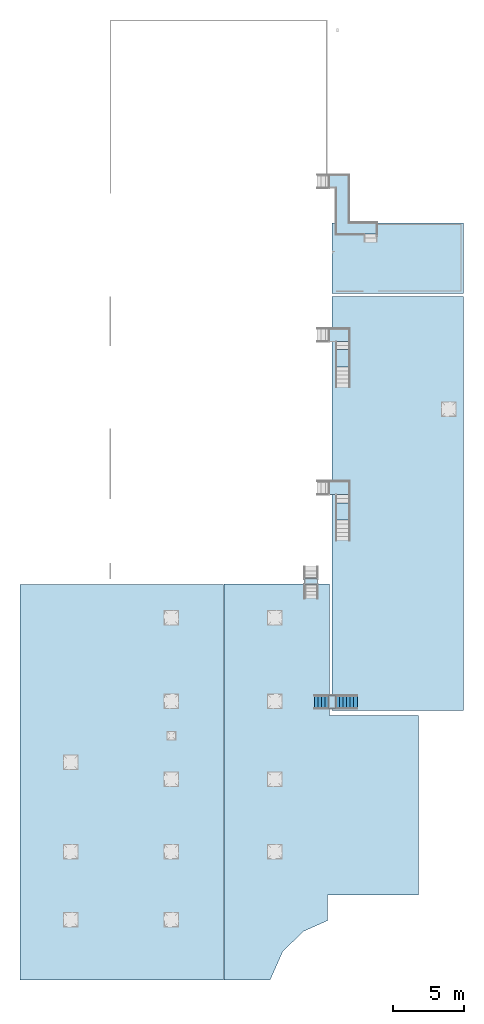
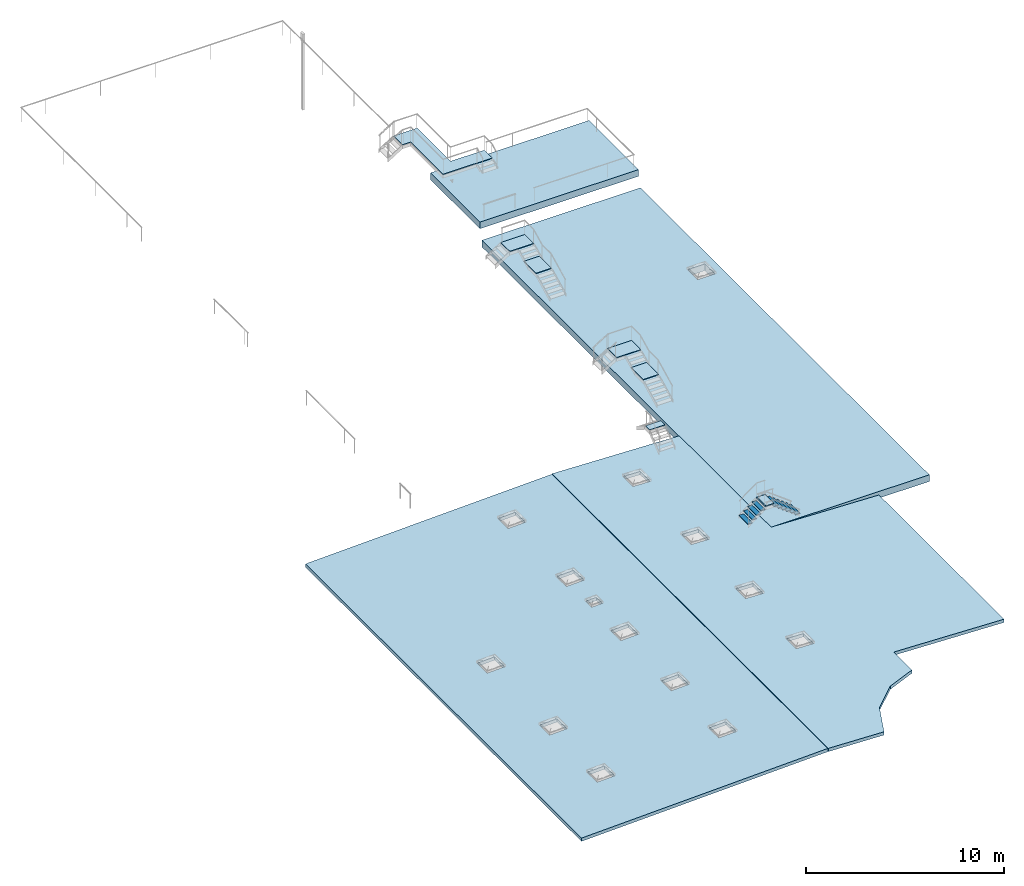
# One storey, part 2 of 15: 13 slabs, 2 stair flights, 28 openings, 11 elements without a shape of their own.
"""IFC2X3 building model written with IfcOpenShell, lengths in centimetres."""

from ifc_helpers import new_model, entity, si_unit, converted_unit, derived_unit, direction, frame, frame_2d, origin, origin_2d_with_axis, place, context, subcontext, project, spatial, polyline, ellipse_curve, parameter, trimmed, segment, composite_curve, rectangle, outline, extrude, material, layer, layer_set, element, aggregate, save


model = new_model("IFC2X3")

# Units and contexts
model_context = context("Model", 3, precision=0.001, world=origin(), true_north=direction((6.12303176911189e-17, 1.0)))
body_context = subcontext(model_context, "Body", "Model", "MODEL_VIEW")
ifc_project = project(units=[si_unit("LENGTHUNIT", "METRE", prefix="CENTI"), si_unit("AREAUNIT", "SQUARE_METRE"), si_unit("VOLUMEUNIT", "CUBIC_METRE"), converted_unit("PLANEANGLEUNIT", "DEGREE", entity("IfcRatioMeasure", 0.0174532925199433), si_unit("PLANEANGLEUNIT", "RADIAN"), dimensions=[0, 0, 0, 0, 0, 0, 0]), si_unit("MASSUNIT", "GRAM", prefix="KILO"), si_unit("TIMEUNIT", "SECOND"), si_unit("FREQUENCYUNIT", "HERTZ"), si_unit("THERMODYNAMICTEMPERATUREUNIT", "DEGREE_CELSIUS"), derived_unit("THERMALTRANSMITTANCEUNIT", [(si_unit("MASSUNIT", "GRAM", prefix="KILO"), 1), (si_unit("THERMODYNAMICTEMPERATUREUNIT", "KELVIN"), -1), (si_unit("TIMEUNIT", "SECOND"), -3)]), derived_unit("VOLUMETRICFLOWRATEUNIT", [(si_unit("LENGTHUNIT", "METRE"), 3), (si_unit("TIMEUNIT", "SECOND"), -1)]), si_unit("ELECTRICCURRENTUNIT", "AMPERE"), si_unit("ELECTRICVOLTAGEUNIT", "VOLT"), si_unit("POWERUNIT", "WATT"), si_unit("FORCEUNIT", "NEWTON", prefix="KILO"), si_unit("ILLUMINANCEUNIT", "LUX"), si_unit("LUMINOUSFLUXUNIT", "LUMEN"), si_unit("LUMINOUSINTENSITYUNIT", "CANDELA"), derived_unit("USERDEFINED", [(si_unit("MASSUNIT", "GRAM", prefix="KILO"), -1), (si_unit("LENGTHUNIT", "METRE"), -2), (si_unit("TIMEUNIT", "SECOND"), 3), (si_unit("LUMINOUSFLUXUNIT", "LUMEN"), 1)]), derived_unit("LINEARVELOCITYUNIT", [(si_unit("LENGTHUNIT", "METRE"), 1), (si_unit("TIMEUNIT", "SECOND"), -1)]), si_unit("PRESSUREUNIT", "PASCAL"), derived_unit("USERDEFINED", [(si_unit("LENGTHUNIT", "METRE"), -2), (si_unit("MASSUNIT", "GRAM", prefix="KILO"), 1), (si_unit("TIMEUNIT", "SECOND"), -2)])], contexts=[model_context])

# Site, building, storey
site_placement = place(None, frame((8.62739174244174, -249.285249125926, 0.0)))
site = spatial("IfcSite", under=ifc_project, at=site_placement, Name="Default", CompositionType="ELEMENT")
building_placement = place(site_placement, origin())
building = spatial("IfcBuilding", under=site, at=building_placement, CompositionType="ELEMENT")
storey_placement = place(building_placement, frame((0.0, 0.0, 801.0)))
storey = spatial("IfcBuildingStorey", under=building, at=storey_placement, Name="Acrotère E3", CompositionType="ELEMENT", Elevation=801.0)

# Roof, openings, slab
roof_1_placement = place(storey_placement, frame((850.904827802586, 752.980244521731, -90.1686590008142)))
roof_1 = element("IfcRoof", 1, at=roof_1_placement, inside=storey, Name="Toit de base:Toit_Multicouche_20 cm", ObjectType="Toit de base:Toit_Multicouche_20 cm", ShapeType="NOTDEFINED")
opening_1_placement = place(roof_1_placement, origin())
element("IfcOpeningElement", 2, at=opening_1_placement, cuts=roof_1, Name="Toit de base:Toit_Multicouche_20 cm", ObjectType="Opening", context=body_context, shape_type="SweptSolid", body=[
    extrude(rectangle(XDim=100.0, YDim=100.0, at=frame_2d((0.0, 0.0), x_axis=(0.0, 1.0))), frame((363.80867123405, 425.019755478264, -119.776224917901), z_axis=(-0.0348994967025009, 0.0, 0.999390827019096), x_axis=(0.0, 1.0, 0.0)), (0.0, 0.0, 1.0), 304.8),
])
opening_2_placement = place(roof_1_placement, origin())
element("IfcOpeningElement", 3, at=opening_2_placement, cuts=roof_1, Name="Toit de base:Toit_Multicouche_20 cm", ObjectType="Opening", context=body_context, shape_type="SweptSolid", body=[
    extrude(rectangle(XDim=100.0, YDim=100.0, at=frame_2d((0.0, 0.0), x_axis=(0.0, 1.0))), frame((363.808671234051, 905.019755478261, -119.776224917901), z_axis=(-0.0348994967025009, 0.0, 0.999390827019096), x_axis=(0.0, 1.0, 0.0)), (0.0, 0.0, 1.0), 304.8),
])
opening_3_placement = place(roof_1_placement, origin())
element("IfcOpeningElement", 4, at=opening_3_placement, cuts=roof_1, Name="Toit de base:Toit_Multicouche_20 cm", ObjectType="Opening", context=body_context, shape_type="SweptSolid", body=[
    extrude(rectangle(XDim=100.0, YDim=100.0, at=frame_2d((-2.16715534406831e-13, 0.0), x_axis=(0.0, 1.0))), frame((363.808671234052, 1535.01975547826, -119.776224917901), z_axis=(-0.0348994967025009, 0.0, 0.999390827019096), x_axis=(0.0, 1.0, 0.0)), (0.0, 0.0, 1.0), 304.8),
])
opening_4_placement = place(roof_1_placement, origin())
element("IfcOpeningElement", 5, at=opening_4_placement, cuts=roof_1, Name="Toit de base:Toit_Multicouche_20 cm", ObjectType="Opening", context=body_context, shape_type="SweptSolid", body=[
    extrude(rectangle(XDim=100.0, YDim=100.0, at=frame_2d((0.0, 0.0), x_axis=(0.0, 1.0))), frame((1073.80867123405, 425.019755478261, -94.9824785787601), z_axis=(-0.0348994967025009, 0.0, 0.999390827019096), x_axis=(0.0, 1.0, 0.0)), (0.0, 0.0, 1.0), 304.8),
])
opening_5_placement = place(roof_1_placement, origin())
element("IfcOpeningElement", 6, at=opening_5_placement, cuts=roof_1, Name="Toit de base:Toit_Multicouche_20 cm", ObjectType="Opening", context=body_context, shape_type="SweptSolid", body=[
    extrude(rectangle(XDim=100.0, YDim=100.0, at=frame_2d((0.0, 0.0), x_axis=(0.0, 1.0))), frame((1073.80867123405, 905.019755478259, -94.9824785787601), z_axis=(-0.0348994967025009, 0.0, 0.999390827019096), x_axis=(0.0, 1.0, 0.0)), (0.0, 0.0, 1.0), 304.8),
])
opening_6_placement = place(roof_1_placement, origin())
element("IfcOpeningElement", 7, at=opening_6_placement, cuts=roof_1, Name="Toit de base:Toit_Multicouche_20 cm", ObjectType="Opening", context=body_context, shape_type="SweptSolid", body=[
    extrude(rectangle(XDim=100.0, YDim=100.0, at=frame_2d((0.0, 0.0), x_axis=(0.0, 1.0))), frame((1073.80867123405, 1415.01975547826, -94.9824785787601), z_axis=(-0.0348994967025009, 0.0, 0.999390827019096), x_axis=(0.0, 1.0, 0.0)), (0.0, 0.0, 1.0), 304.8),
])
opening_7_placement = place(roof_1_placement, origin())
element("IfcOpeningElement", 8, at=opening_7_placement, cuts=roof_1, Name="Toit de base:Toit_Multicouche_20 cm", ObjectType="Opening", context=body_context, shape_type="SweptSolid", body=[
    extrude(rectangle(XDim=100.0, YDim=100.0, at=frame_2d((0.0, 0.0), x_axis=(0.0, 1.0))), frame((1073.80867123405, 1965.01975547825, -94.9824785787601), z_axis=(-0.0348994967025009, 0.0, 0.999390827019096), x_axis=(0.0, 1.0, 0.0)), (0.0, 0.0, 1.0), 304.8),
])
opening_8_placement = place(roof_1_placement, origin())
element("IfcOpeningElement", 9, at=opening_8_placement, cuts=roof_1, Name="Toit de base:Toit_Multicouche_20 cm", ObjectType="Opening", context=body_context, shape_type="SweptSolid", body=[
    extrude(rectangle(XDim=100.0, YDim=100.0, at=frame_2d((-2.16715534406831e-13, 0.0), x_axis=(0.0, 1.0))), frame((1073.80867123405, 2555.01975547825, -94.9824785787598), z_axis=(-0.0348994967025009, 0.0, 0.999390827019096), x_axis=(0.0, 1.0, 0.0)), (0.0, 0.0, 1.0), 304.8),
])
opening_9_placement = place(roof_1_placement, origin())
element("IfcOpeningElement", 10, at=opening_9_placement, cuts=roof_1, Name="Toit de base:Toit_Multicouche_20 cm", ObjectType="Opening", context=body_context, shape_type="SweptSolid", body=[
    extrude(rectangle(XDim=60.0, YDim=59.9999999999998, at=frame_2d((2.18491891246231e-13, 2.16715534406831e-13), x_axis=(1.0, 0.0))), frame((1073.80867121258, 1722.3778199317, -94.98247857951), z_axis=(-0.0348994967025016, 0.0, 0.999390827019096), x_axis=(-0.999390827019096, 0.0, -0.0348994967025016)), (0.0, 0.0, 1.0), 304.8),
])
ifc_material_1 = material(Name="Toiture, membrane EPDM")
ifc_layer_1 = layer(ifc_material_1, 2.0)
ifc_material_2 = material(Name="Laine minérale")
ifc_layer_2 = layer(ifc_material_2, 10.5)
ifc_material_3 = material(Name="Acier")
ifc_layer_3 = layer(ifc_material_3, 7.5)
ifc_layer_set_1 = layer_set([ifc_layer_1, ifc_layer_2, ifc_layer_3], Name="Toit de base:Toit_Multicouche_20 cm")
slab_1_placement = place(roof_1_placement, origin())
slab_1 = element("IfcSlab", 11, at=slab_1_placement, material=ifc_layer_set_1, Name="Toit de base:Toit_Multicouche_20 cm", ObjectType="Toit de base:Toit_Multicouche_20 cm", PredefinedType="ROOF", context=body_context, shape_type="SweptSolid", body=[
    extrude(outline(composite_curve([segment(polyline([(719.045598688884, 1395.00017899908), (-707.874083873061, 1395.00017899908)]), True, "CONTINUOUS"), segment(trimmed(ellipse_curve(frame_2d((-707.833949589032, 1371.4752300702), x_axis=(1.0, 0.0)), 23.5393226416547, 23.5249831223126), [parameter(90.0976887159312)], [parameter(118.443666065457)], True, "PARAMETER"), True, "CONTINUOUS"), segment(polyline([(-719.045598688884, 1392.16041452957), (-719.045598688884, -1395.00017899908)]), True, "CONTINUOUS"), segment(polyline([(-719.045598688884, -1395.00017899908), (719.045598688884, -1395.00017899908)]), True, "CONTINUOUS"), segment(polyline([(719.045598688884, -1395.00017899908), (719.045598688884, 1395.00017899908)]), True, "CONTINUOUS")], self_intersect=False)), frame((718.607575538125, 1395.00017899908, 25.0943295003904), z_axis=(-0.0348994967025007, 0.0, 0.999390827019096), x_axis=(0.999390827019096, 0.0, 0.0348994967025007)), (0.0348994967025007, 0.0, 0.999390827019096), 20.0121908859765),
])
opening_10_placement = place(roof_1_placement, origin())
element("IfcOpeningElement", 12, at=opening_10_placement, cuts=slab_1, Name="Toit de base:Toit_Multicouche_20 cm", ObjectType="Opening", context=body_context, shape_type="SweptSolid", body=[
    extrude(rectangle(XDim=100.0, YDim=100.0, at=frame_2d((-2.16715534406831e-13, 1.10134124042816e-13), x_axis=(0.0, 1.0))), frame((359.187977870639, 425.019755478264, 12.5431205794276), z_axis=(-0.0348994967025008, 0.0, 0.999390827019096), x_axis=(0.0, 1.0, 0.0)), (0.0, 0.0, 1.0), 20.0121908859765),
])
opening_11_placement = place(roof_1_placement, origin())
element("IfcOpeningElement", 13, at=opening_11_placement, cuts=slab_1, Name="Toit de base:Toit_Multicouche_20 cm", ObjectType="Opening", context=body_context, shape_type="SweptSolid", body=[
    extrude(rectangle(XDim=100.0, YDim=100.0, at=frame_2d((0.0, 1.10134124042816e-13), x_axis=(0.0, 1.0))), frame((359.18797787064, 905.019755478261, 12.5431205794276), z_axis=(-0.0348994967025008, 0.0, 0.999390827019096), x_axis=(0.0, 1.0, 0.0)), (0.0, 0.0, 1.0), 20.0121908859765),
])
opening_12_placement = place(roof_1_placement, origin())
element("IfcOpeningElement", 14, at=opening_12_placement, cuts=slab_1, Name="Toit de base:Toit_Multicouche_20 cm", ObjectType="Opening", context=body_context, shape_type="SweptSolid", body=[
    extrude(rectangle(XDim=100.0, YDim=100.0, at=frame_2d((-2.16715534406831e-13, 1.10134124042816e-13), x_axis=(0.0, 1.0))), frame((359.187977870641, 1535.01975547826, 12.5431205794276), z_axis=(-0.0348994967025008, 0.0, 0.999390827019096), x_axis=(0.0, 1.0, 0.0)), (0.0, 0.0, 1.0), 20.0121908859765),
])
opening_13_placement = place(roof_1_placement, origin())
element("IfcOpeningElement", 15, at=opening_13_placement, cuts=slab_1, Name="Toit de base:Toit_Multicouche_20 cm", ObjectType="Opening", context=body_context, shape_type="SweptSolid", body=[
    extrude(rectangle(XDim=100.000000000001, YDim=100.0, at=frame_2d((-2.16715534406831e-13, 0.0), x_axis=(0.0, 1.0))), frame((1069.18797787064, 425.019755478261, 37.3368669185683), z_axis=(-0.0348994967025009, 0.0, 0.999390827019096), x_axis=(0.0, 1.0, 0.0)), (0.0, 0.0, 1.0), 20.0121908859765),
])
opening_14_placement = place(roof_1_placement, origin())
element("IfcOpeningElement", 16, at=opening_14_placement, cuts=slab_1, Name="Toit de base:Toit_Multicouche_20 cm", ObjectType="Opening", context=body_context, shape_type="SweptSolid", body=[
    extrude(rectangle(XDim=100.000000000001, YDim=100.0, at=frame_2d((0.0, -4.29878355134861e-13), x_axis=(0.0, 1.0))), frame((1069.18797787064, 905.019755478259, 37.3368669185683), z_axis=(-0.0348994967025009, 0.0, 0.999390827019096), x_axis=(0.0, 1.0, 0.0)), (0.0, 0.0, 1.0), 20.0121908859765),
])
opening_15_placement = place(roof_1_placement, origin())
element("IfcOpeningElement", 17, at=opening_15_placement, cuts=slab_1, Name="Toit de base:Toit_Multicouche_20 cm", ObjectType="Opening", context=body_context, shape_type="SweptSolid", body=[
    extrude(rectangle(XDim=100.000000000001, YDim=100.0, at=frame_2d((2.16715534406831e-13, -2.16715534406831e-13), x_axis=(0.0, 1.0))), frame((1069.18797787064, 1415.01975547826, 37.3368669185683), z_axis=(-0.0348994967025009, 0.0, 0.999390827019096), x_axis=(0.0, 1.0, 0.0)), (0.0, 0.0, 1.0), 20.0121908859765),
])
opening_16_placement = place(roof_1_placement, origin())
element("IfcOpeningElement", 18, at=opening_16_placement, cuts=slab_1, Name="Toit de base:Toit_Multicouche_20 cm", ObjectType="Opening", context=body_context, shape_type="SweptSolid", body=[
    extrude(rectangle(XDim=100.000000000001, YDim=100.0, at=frame_2d((2.16715534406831e-13, -2.16715534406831e-13), x_axis=(0.0, 1.0))), frame((1069.18797787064, 1965.01975547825, 37.3368669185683), z_axis=(-0.0348994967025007, 0.0, 0.999390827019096), x_axis=(0.0, 1.0, 0.0)), (0.0, 0.0, 1.0), 20.0121908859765),
])
opening_17_placement = place(roof_1_placement, origin())
element("IfcOpeningElement", 19, at=opening_17_placement, cuts=slab_1, Name="Toit de base:Toit_Multicouche_20 cm", ObjectType="Opening", context=body_context, shape_type="SweptSolid", body=[
    extrude(rectangle(XDim=100.000000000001, YDim=100.0, at=frame_2d((-2.16715534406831e-13, 2.16715534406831e-13), x_axis=(0.0, 1.0))), frame((1069.18797787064, 2555.01975547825, 37.3368669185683), z_axis=(-0.0348994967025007, 0.0, 0.999390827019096), x_axis=(0.0, 1.0, 0.0)), (0.0, 0.0, 1.0), 20.0121908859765),
])
opening_18_placement = place(roof_1_placement, origin())
element("IfcOpeningElement", 20, at=opening_18_placement, cuts=slab_1, Name="Toit de base:Toit_Multicouche_20 cm", ObjectType="Opening", context=body_context, shape_type="SweptSolid", body=[
    extrude(rectangle(XDim=59.9999999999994, YDim=59.9999999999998, at=frame_2d((-2.16715534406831e-13, 2.16715534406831e-13), x_axis=(1.0, 0.0))), frame((1069.18797784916, 1722.3778199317, 37.3368669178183), z_axis=(-0.0348994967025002, 0.0, 0.999390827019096), x_axis=(-0.999390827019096, 0.0, -0.0348994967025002)), (0.0, 0.0, 1.0), 20.0121908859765),
])
aggregate(roof_1, [slab_1])

roof_2_placement = place(storey_placement, frame((2291.11997887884, 751.980208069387, -87.8139409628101)))
roof_2 = element("IfcRoof", 21, at=roof_2_placement, inside=storey, Name="Toit de base:Toit_Multicouche_20 cm", ObjectType="Toit de base:Toit_Multicouche_20 cm", ShapeType="NOTDEFINED")
opening_19_placement = place(roof_2_placement, origin())
element("IfcOpeningElement", 22, at=opening_19_placement, cuts=roof_2, Name="Toit de base:Toit_Multicouche_20 cm", ObjectType="Opening", context=body_context, shape_type="SweptSolid", body=[
    extrude(rectangle(XDim=100.0, YDim=100.0, at=frame_2d((0.0, 0.0), x_axis=(0.0, 1.0))), frame((351.842133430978, 906.019791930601, -96.8635192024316), z_axis=(0.0348994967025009, 0.0, 0.999390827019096), x_axis=(0.0, 1.0, 0.0)), (0.0, 0.0, 1.0), 304.8),
])
opening_20_placement = place(roof_2_placement, origin())
element("IfcOpeningElement", 23, at=opening_20_placement, cuts=roof_2, Name="Toit de base:Toit_Multicouche_20 cm", ObjectType="Opening", context=body_context, shape_type="SweptSolid", body=[
    extrude(rectangle(XDim=100.0, YDim=100.0, at=frame_2d((-2.1316282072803e-13, 4.33431068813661e-13), x_axis=(0.0, 1.0))), frame((351.84213343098, 1416.0197919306, -96.8635192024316), z_axis=(0.0348994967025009, 0.0, 0.999390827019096), x_axis=(0.0, 1.0, 0.0)), (0.0, 0.0, 1.0), 304.8),
])
opening_21_placement = place(roof_2_placement, origin())
element("IfcOpeningElement", 24, at=opening_21_placement, cuts=roof_2, Name="Toit de base:Toit_Multicouche_20 cm", ObjectType="Opening", context=body_context, shape_type="SweptSolid", body=[
    extrude(rectangle(XDim=100.0, YDim=100.0, at=frame_2d((-2.1316282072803e-13, -4.33431068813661e-13), x_axis=(0.0, 1.0))), frame((351.84213343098, 1966.0197919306, -96.8635192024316), z_axis=(0.0348994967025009, 0.0, 0.999390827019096), x_axis=(0.0, 1.0, 0.0)), (0.0, 0.0, 1.0), 304.8),
])
opening_22_placement = place(roof_2_placement, origin())
element("IfcOpeningElement", 25, at=opening_22_placement, cuts=roof_2, Name="Toit de base:Toit_Multicouche_20 cm", ObjectType="Opening", context=body_context, shape_type="SweptSolid", body=[
    extrude(rectangle(XDim=100.0, YDim=100.0, at=frame_2d((2.1316282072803e-13, 0.0), x_axis=(0.0, 1.0))), frame((351.842133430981, 2556.0197919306, -96.8635192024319), z_axis=(0.0348994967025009, 0.0, 0.999390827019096), x_axis=(0.0, 1.0, 0.0)), (0.0, 0.0, 1.0), 304.8),
])
slab_2_placement = place(roof_2_placement, origin())
slab_2 = element("IfcSlab", 26, at=slab_2_placement, material=ifc_layer_set_1, Name="Toit de base:Toit_Multicouche_20 cm", ObjectType="Toit de base:Toit_Multicouche_20 cm", PredefinedType="ROOF", context=body_context, shape_type="SweptSolid", body=[
    extrude(outline(polyline([(-686.310506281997, -1397.00017899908), (-361.449068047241, -1397.00017899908), (-271.487803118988, -1195.06695698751), (-126.61555745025, -1054.17981079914), (42.9988849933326, -978.708598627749), (42.9988849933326, -796.000573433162), (686.310506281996, -796.000573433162), (686.310506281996, 467.999821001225), (56.9271027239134, 467.999821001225), (56.9271027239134, 1397.00017899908), (-686.310506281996, 1397.00017899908), (-686.310506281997, -1397.00017899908)])), frame((685.892424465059, 1397.00017899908, 23.9518912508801), z_axis=(0.0348994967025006, 0.0, 0.999390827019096), x_axis=(0.999390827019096, 0.0, -0.0348994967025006)), (-0.0348994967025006, 0.0, 0.999390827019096), 20.0121908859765),
])
opening_23_placement = place(roof_2_placement, origin())
element("IfcOpeningElement", 27, at=opening_23_placement, cuts=slab_2, Name="Toit de base:Toit_Multicouche_20 cm", ObjectType="Opening", context=body_context, shape_type="SweptSolid", body=[
    extrude(rectangle(XDim=100.000000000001, YDim=100.0, at=frame_2d((0.0, 0.0), x_axis=(0.0, 1.0))), frame((356.462826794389, 906.019791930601, 35.4558262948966), z_axis=(0.0348994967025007, 0.0, 0.999390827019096), x_axis=(0.0, 1.0, 0.0)), (0.0, 0.0, 1.0), 20.0121908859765),
])
opening_24_placement = place(roof_2_placement, origin())
element("IfcOpeningElement", 28, at=opening_24_placement, cuts=slab_2, Name="Toit de base:Toit_Multicouche_20 cm", ObjectType="Opening", context=body_context, shape_type="SweptSolid", body=[
    extrude(rectangle(XDim=100.000000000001, YDim=99.9999999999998, at=frame_2d((0.0, 0.0), x_axis=(0.0, 1.0))), frame((356.46282679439, 1416.0197919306, 35.4558262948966), z_axis=(0.0348994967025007, 0.0, 0.999390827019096), x_axis=(0.0, 1.0, 0.0)), (0.0, 0.0, 1.0), 20.0121908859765),
])
opening_25_placement = place(roof_2_placement, origin())
element("IfcOpeningElement", 29, at=opening_25_placement, cuts=slab_2, Name="Toit de base:Toit_Multicouche_20 cm", ObjectType="Opening", context=body_context, shape_type="SweptSolid", body=[
    extrude(rectangle(XDim=100.000000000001, YDim=99.9999999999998, at=frame_2d((0.0, 0.0), x_axis=(0.0, 1.0))), frame((356.462826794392, 1966.0197919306, 35.4558262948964), z_axis=(0.0348994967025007, 0.0, 0.999390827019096), x_axis=(0.0, 1.0, 0.0)), (0.0, 0.0, 1.0), 20.0121908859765),
])
opening_26_placement = place(roof_2_placement, origin())
element("IfcOpeningElement", 30, at=opening_26_placement, cuts=slab_2, Name="Toit de base:Toit_Multicouche_20 cm", ObjectType="Opening", context=body_context, shape_type="SweptSolid", body=[
    extrude(rectangle(XDim=100.000000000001, YDim=99.9999999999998, at=frame_2d((4.33431068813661e-13, 0.0), x_axis=(0.0, 1.0))), frame((356.462826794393, 2556.0197919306, 35.4558262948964), z_axis=(0.0348994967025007, 0.0, 0.999390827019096), x_axis=(0.0, 1.0, 0.0)), (0.0, 0.0, 1.0), 20.0121908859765),
])
aggregate(roof_2, [slab_2])

roof_3_placement = place(building_placement, frame((3053.9048277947, 2654.98020806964, 683.0)))
roof_3 = element("IfcRoof", 31, at=roof_3_placement, inside=storey, Name="Toit de base:ET 2 + ISO 17 + BET 22", ObjectType="Toit de base:ET 2 + ISO 17 + BET 22", ShapeType="NOTDEFINED")
opening_27_placement = place(roof_3_placement, origin())
element("IfcOpeningElement", 32, at=opening_27_placement, cuts=roof_3, Name="Toit de base:ET 2 + ISO 17 + BET 22", ObjectType="Opening", context=body_context, shape_type="SweptSolid", body=[
    extrude(rectangle(XDim=99.9999999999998, YDim=100.000000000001, at=origin_2d_with_axis()), frame((822.0, 2125.50000006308, -111.4), z_axis=(0.0, 0.0, 1.0), x_axis=(-1.0, 0.0, 0.0)), (0.0, 0.0, 1.0), 304.8),
])
ifc_layer_4 = layer(ifc_material_1, 2.0)
ifc_layer_5 = layer(ifc_material_2, 17.0)
ifc_material_4 = material(Name="Béton, coulé sur place, gris(1)")
ifc_layer_6 = layer(ifc_material_4, 22.0)
ifc_layer_set_2 = layer_set([ifc_layer_4, ifc_layer_5, ifc_layer_6], Name="Toit de base:ET 2 + ISO 17 + BET 22")
slab_3_placement = place(roof_3_placement, origin())
slab_3 = element("IfcSlab", 33, at=slab_3_placement, material=ifc_layer_set_2, Name="Toit de base:ET 2 + ISO 17 + BET 22", ObjectType="Toit de base:ET 2 + ISO 17 + BET 22", PredefinedType="ROOF", context=body_context, shape_type="SweptSolid", body=[
    extrude(rectangle(XDim=2920.00000006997, YDim=925.000000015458, at=frame_2d((-2.27373675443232e-13, 0.0), x_axis=(0.0, -1.0))), frame((462.500000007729, 1460.0, 0.0)), (0.0, 0.0, 1.0), 41.0),
])
opening_28_placement = place(roof_3_placement, origin())
element("IfcOpeningElement", 34, at=opening_28_placement, cuts=slab_3, Name="Toit de base:ET 2 + ISO 17 + BET 22", ObjectType="Opening", context=body_context, shape_type="SweptSolid", body=[
    extrude(rectangle(XDim=99.9999999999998, YDim=99.9999999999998, at=origin_2d_with_axis()), frame((822.0, 2125.50000006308, 0.0), z_axis=(0.0, 0.0, 1.0), x_axis=(-1.0, 0.0, 0.0)), (0.0, 0.0, 1.0), 41.0),
])
aggregate(roof_3, [slab_3])

# Roof, slab
roof_4_placement = place(building_placement, frame((3053.9048276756, 5594.9802081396, 783.0)))
roof_4 = element("IfcRoof", 35, at=roof_4_placement, inside=storey, Name="Toit de base:ET 2 + ISO 17 + BET 22", ObjectType="Toit de base:ET 2 + ISO 17 + BET 22", ShapeType="NOTDEFINED")
slab_4_placement = place(roof_4_placement, origin())
slab_4 = element("IfcSlab", 36, at=slab_4_placement, material=ifc_layer_set_2, Name="Toit de base:ET 2 + ISO 17 + BET 22", ObjectType="Toit de base:ET 2 + ISO 17 + BET 22", PredefinedType="ROOF", context=body_context, shape_type="SweptSolid", body=[
    extrude(rectangle(XDim=500.0, YDim=925.000000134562, at=frame_2d((-2.27373675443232e-13, 4.40536496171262e-13), x_axis=(0.0, 1.0))), frame((462.500000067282, 250.0, 0.0)), (0.0, 0.0, 1.0), 41.0),
])
aggregate(roof_4, [slab_4])

# Stair, slabs
stair_1_placement = place(building_placement, frame((0.0, 0.0, 801.0)))
stair_1 = element("IfcStair", 37, at=stair_1_placement, inside=storey, Name="Escalier assemblé:Escalier", ShapeType="NOTDEFINED")
ifc_material_5 = material(Name="Acier, 45-345")
slab_5_placement = place(stair_1_placement, origin())
slab_5 = element("IfcSlab", 38, at=slab_5_placement, material=ifc_material_5, Name="Escalier assemblé:Escalier:1444679 Landing 1", ObjectType="Escalier assemblé:Escalier métallique", PredefinedType="LANDING", context=body_context, shape_type="SweptSolid", body=[
    extrude(rectangle(XDim=90.0000000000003, YDim=122.290118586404, at=origin_2d_with_axis()), frame((3128.90482781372, 4058.33025265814, 7.33333333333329)), (0.0, 0.0, 1.0), 2.99999999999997),
])
slab_6_placement = place(stair_1_placement, origin())
slab_6 = element("IfcSlab", 39, at=slab_6_placement, material=ifc_material_5, Name="Escalier assemblé:Escalier:1444679 Landing 2", ObjectType="Escalier assemblé:Escalier métallique", PredefinedType="LANDING", context=body_context, shape_type="SweptSolid", body=[
    extrude(rectangle(XDim=140.000000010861, YDim=93.0000000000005, at=frame_2d((3.99999999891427, 9.29999999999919), x_axis=(1.0, 0.0))), frame((3099.90482780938, 4214.67531195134, 51.0)), (0.0, 0.0, 1.0), 2.99999999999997),
])
aggregate(stair_1, [slab_5, slab_6])

stair_2_placement = place(storey_placement, origin())
stair_2 = element("IfcStair", 40, at=stair_2_placement, inside=storey, Name="Escalier assemblé:Escalier", ShapeType="NOTDEFINED")
slab_7_placement = place(stair_2_placement, origin())
slab_7 = element("IfcSlab", 41, at=slab_7_placement, material=ifc_material_5, Name="Escalier assemblé:Escalier:1453682 Landing 1", ObjectType="Escalier assemblé:Escalier métallique", PredefinedType="LANDING", context=body_context, shape_type="SweptSolid", body=[
    extrude(rectangle(XDim=90.0000000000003, YDim=121.545514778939, at=frame_2d((0.0, 4.33431068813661e-13), x_axis=(1.0, 0.0))), frame((3128.90482780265, 5139.70447839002, 7.33333333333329)), (0.0, 0.0, 1.0), 2.99999999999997),
])
slab_8_placement = place(stair_2_placement, origin())
slab_8 = element("IfcSlab", 42, at=slab_8_placement, material=ifc_material_5, Name="Escalier assemblé:Escalier:1453682 Landing 2", ObjectType="Escalier assemblé:Escalier métallique", PredefinedType="LANDING", context=body_context, shape_type="SweptSolid", body=[
    extrude(rectangle(XDim=139.999999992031, YDim=90.0000000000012, at=frame_2d((4.00000000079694, 9.00000000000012), x_axis=(1.0, 0.0))), frame((3099.90482780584, 5294.47723577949, 51.0)), (0.0, 0.0, 1.0), 2.99999999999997),
])
aggregate(stair_2, [slab_7, slab_8])

# Stair, slab
stair_3_placement = place(storey_placement, origin())
stair_3 = element("IfcStair", 43, at=stair_3_placement, inside=storey, Name="Escalier assemblé:Escalier", ShapeType="NOTDEFINED")
slab_9_placement = place(stair_3_placement, origin())
slab_9 = element("IfcSlab", 44, at=slab_9_placement, material=ifc_material_5, Name="Escalier assemblé:Escalier:1453820 Landing 1", ObjectType="Escalier assemblé:Escalier métallique", PredefinedType="LANDING", context=body_context, shape_type="SweptSolid", body=[
    extrude(outline(polyline([(101.777777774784, -183.332094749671), (191.777777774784, -183.332094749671), (191.777777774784, -103.332094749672), (-5.22222223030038, -103.332094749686), (-5.22222223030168, 234.165118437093), (-142.222222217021, 234.165118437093), (-142.222222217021, 144.165118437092), (-95.2222222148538, 144.165118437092), (-95.2222222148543, -183.332094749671), (101.777777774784, -183.332094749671)])), frame((3176.12705002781, 6198.31230288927, 51.0)), (0.0, 0.0, 1.0), 2.99999999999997),
])
aggregate(stair_3, [slab_9])

stair_4_placement = place(building_placement, frame((0.0, 0.0, 801.0)))
stair_4 = element("IfcStair", 45, at=stair_4_placement, inside=storey, Name="Escalier assemblé:Escalier", ShapeType="NOTDEFINED")
slab_10_placement = place(stair_4_placement, origin())
slab_10 = element("IfcSlab", 46, at=slab_10_placement, material=ifc_material_5, Name="Escalier assemblé:Escalier:1460621 Landing 1", ObjectType="Escalier assemblé:Escalier métallique toiture", PredefinedType="LANDING", context=body_context, shape_type="SweptSolid", body=[
    extrude(rectangle(XDim=90.0000000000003, YDim=46.999999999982, at=origin_2d_with_axis()), frame((3057.40482782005, 2712.98020806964, 51.0), z_axis=(0.0, 0.0, 1.0), x_axis=(0.0, 1.0, 0.0)), (0.0, 0.0, 1.0), 2.99999999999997),
])

stair_5_placement = place(building_placement, frame((0.0, 0.0, 801.0)))
stair_5 = element("IfcStair", 47, at=stair_5_placement, inside=storey, Name="Escalier assemblé:Escalier", ShapeType="NOTDEFINED")
slab_11_placement = place(stair_5_placement, origin())
slab_11 = element("IfcSlab", 48, at=slab_11_placement, material=ifc_material_5, Name="Escalier assemblé:Escalier:1461006 Landing 1", ObjectType="Escalier assemblé:Escalier métallique toiture", PredefinedType="LANDING", context=body_context, shape_type="SweptSolid", body=[
    extrude(rectangle(XDim=90.0000000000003, YDim=49.9999999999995, at=frame_2d((0.0, -4.33431068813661e-13), x_axis=(1.0, 0.0))), frame((3052.90482782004, 2712.98020806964, 51.0), z_axis=(0.0, 0.0, 1.0), x_axis=(0.0, -1.0, 0.0)), (0.0, 0.0, 1.0), 2.99999999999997),
])

stair_6_placement = place(storey_placement, origin())
stair_6 = element("IfcStair", 49, at=stair_6_placement, inside=storey, Name="Escalier assemblé:Escalier", ShapeType="NOTDEFINED")
slab_12_placement = place(stair_6_placement, origin())
slab_12 = element("IfcSlab", 50, at=slab_12_placement, material=ifc_material_5, Name="Escalier assemblé:Escalier:1461847 Landing 1", ObjectType="Escalier assemblé:Escalier métallique toiture", PredefinedType="LANDING", context=body_context, shape_type="SweptSolid", body=[
    extrude(rectangle(XDim=41.5000000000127, YDim=90.0000000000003, at=frame_2d((2.16715534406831e-13, 0.0), x_axis=(1.0, 0.0))), frame((2903.97106117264, 3563.93519336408, 51.0), z_axis=(0.0, 0.0, 1.0), x_axis=(0.0, -1.0, 0.0)), (0.0, 0.0, 1.0), 2.99999999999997),
])
aggregate(stair_6, [slab_12])

stair_7_placement = place(storey_placement, origin())
stair_7 = element("IfcStair", 51, at=stair_7_placement, inside=storey, Name="Escalier assemblé:Escalier", ShapeType="NOTDEFINED")
slab_13_placement = place(stair_7_placement, origin())
slab_13 = element("IfcSlab", 52, at=slab_13_placement, material=ifc_material_5, Name="Escalier assemblé:Escalier:1461963 Landing 1", ObjectType="Escalier assemblé:Escalier métallique toiture", PredefinedType="LANDING", context=body_context, shape_type="SweptSolid", body=[
    extrude(rectangle(XDim=90.0000000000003, YDim=41.5000000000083, at=frame_2d((0.0, -2.16715534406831e-13), x_axis=(1.0, 0.0))), frame((2904.14525468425, 3563.93519336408, 51.0), z_axis=(0.0, 0.0, 1.0), x_axis=(-1.0, 0.0, 0.0)), (0.0, 0.0, 1.0), 2.99999999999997),
])
aggregate(stair_7, [slab_13])

# Stair flight
stair_flight_1_placement = place(stair_4_placement, origin())
stair_flight_1 = element("IfcStairFlight", 53, at=stair_flight_1_placement, material=ifc_material_5, Name="Escalier assemblé:Escalier:1460621 Run 1", ObjectType="Escalier assemblé:Escalier métallique toiture", NumberOfRiser=7, NumberOfTreads=6, RiserHeight=0.613985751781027, TreadLength=0.820209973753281, context=body_context, shape_type="SweptSolid", body=[
    extrude(rectangle(XDim=24.9999999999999, YDim=90.0000000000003, at=frame_2d((-2.16715534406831e-13, 0.0), x_axis=(1.0, 0.0))), frame((3218.40482782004, 2712.98020806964, -61.2857142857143)), (0.0, 0.0, 1.0), 2.99999999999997),
    extrude(rectangle(XDim=24.9999999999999, YDim=90.0000000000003, at=frame_2d((2.16715534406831e-13, 0.0), x_axis=(1.0, 0.0))), frame((3193.40482782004, 2712.98020806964, -42.5714285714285)), (0.0, 0.0, 1.0), 2.99999999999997),
    extrude(rectangle(XDim=24.9999999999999, YDim=90.0000000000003, at=frame_2d((2.16715534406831e-13, 0.0), x_axis=(1.0, 0.0))), frame((3168.40482782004, 2712.98020806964, -23.8571428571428)), (0.0, 0.0, 1.0), 2.99999999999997),
    extrude(rectangle(XDim=24.9999999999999, YDim=90.0000000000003, at=frame_2d((2.16715534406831e-13, 0.0), x_axis=(1.0, 0.0))), frame((3143.40482782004, 2712.98020806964, -5.14285714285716)), (0.0, 0.0, 1.0), 2.99999999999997),
    extrude(rectangle(XDim=24.9999999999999, YDim=90.0000000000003, at=frame_2d((2.16715534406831e-13, 0.0), x_axis=(1.0, 0.0))), frame((3118.40482782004, 2712.98020806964, 13.5714285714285)), (0.0, 0.0, 1.0), 2.99999999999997),
    extrude(rectangle(XDim=24.9999999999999, YDim=90.0000000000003, at=frame_2d((2.16715534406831e-13, 0.0), x_axis=(1.0, 0.0))), frame((3093.40482782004, 2712.98020806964, 32.2857142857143)), (0.0, 0.0, 1.0), 2.99999999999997),
])

aggregate(stair_4, [stair_flight_1, slab_10])

stair_flight_2_placement = place(stair_5_placement, origin())
stair_flight_2 = element("IfcStairFlight", 54, at=stair_flight_2_placement, material=ifc_material_5, Name="Escalier assemblé:Escalier:1461006 Run 1", ObjectType="Escalier assemblé:Escalier métallique toiture", NumberOfRiser=5, NumberOfTreads=4, RiserHeight=0.613985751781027, TreadLength=0.820209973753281, context=body_context, shape_type="SweptSolid", body=[
    extrude(rectangle(XDim=24.9999999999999, YDim=90.0000000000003, at=frame_2d((-2.16715534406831e-13, 0.0), x_axis=(1.0, 0.0))), frame((2940.40482782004, 2712.98020806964, -23.8571428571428), z_axis=(0.0, 0.0, 1.0), x_axis=(-1.0, 0.0, 0.0)), (0.0, 0.0, 1.0), 2.99999999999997),
    extrude(rectangle(XDim=24.9999999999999, YDim=90.0000000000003, at=frame_2d((2.16715534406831e-13, 0.0), x_axis=(1.0, 0.0))), frame((2965.40482782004, 2712.98020806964, -5.14285714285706), z_axis=(0.0, 0.0, 1.0), x_axis=(-1.0, 0.0, 0.0)), (0.0, 0.0, 1.0), 2.99999999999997),
    extrude(rectangle(XDim=24.9999999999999, YDim=90.0000000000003, at=frame_2d((2.16715534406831e-13, 0.0), x_axis=(1.0, 0.0))), frame((2990.40482782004, 2712.98020806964, 13.5714285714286), z_axis=(0.0, 0.0, 1.0), x_axis=(-1.0, 0.0, 0.0)), (0.0, 0.0, 1.0), 2.99999999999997),
    extrude(rectangle(XDim=24.9999999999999, YDim=90.0000000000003, at=frame_2d((2.16715534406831e-13, 0.0), x_axis=(1.0, 0.0))), frame((3015.40482782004, 2712.98020806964, 32.2857142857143), z_axis=(0.0, 0.0, 1.0), x_axis=(-1.0, 0.0, 0.0)), (0.0, 0.0, 1.0), 2.99999999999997),
])

aggregate(stair_5, [stair_flight_2, slab_11])

save(model, "model.ifc")
